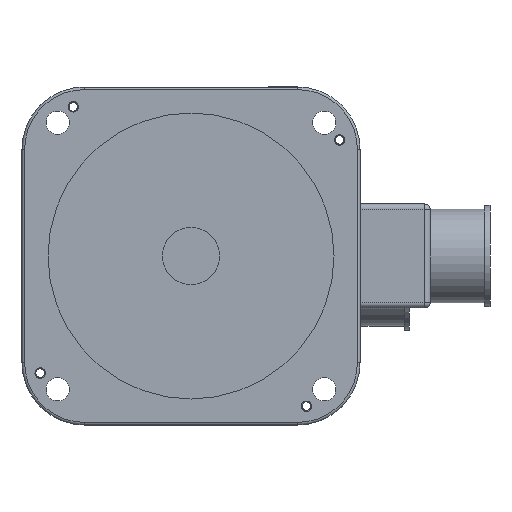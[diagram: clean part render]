
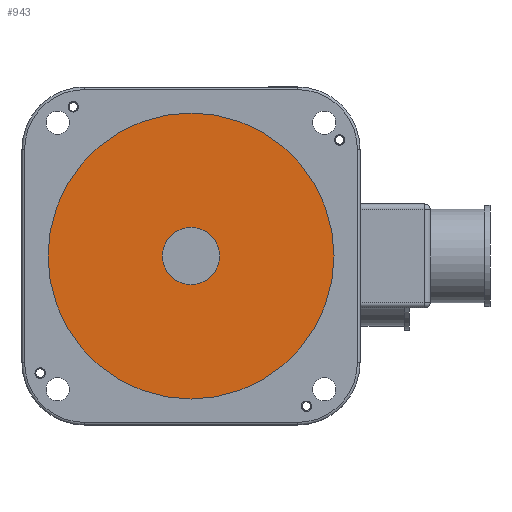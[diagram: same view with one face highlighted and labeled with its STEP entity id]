
A CAD part, left-side view. The second image highlights one B-rep face of the part: STEP entity #943.
In plain terms, the highlighted planar face has unit normal (-1, 0, 0).
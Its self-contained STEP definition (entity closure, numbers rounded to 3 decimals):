
#270=FACE_BOUND('',#1450,.T.);
#271=FACE_BOUND('',#1451,.T.);
#345=PLANE('',#4106);
#943=ADVANCED_FACE('',(#270,#271),#345,.F.);
#1450=EDGE_LOOP('',(#1901));
#1451=EDGE_LOOP('',(#1902));
#1901=ORIENTED_EDGE('',*,*,#3348,.T.);
#1902=ORIENTED_EDGE('',*,*,#3351,.F.);
#2995=VERTEX_POINT('',#6110);
#2998=VERTEX_POINT('',#6118);
#3348=EDGE_CURVE('',#2995,#2995,#3838,.T.);
#3351=EDGE_CURVE('',#2998,#2998,#3841,.T.);
#3838=CIRCLE('',#4099,11.);
#3841=CIRCLE('',#4104,55.);
#4099=AXIS2_PLACEMENT_3D('',#6109,#4748,#4749);
#4104=AXIS2_PLACEMENT_3D('',#6117,#4758,#4759);
#4106=AXIS2_PLACEMENT_3D('',#6120,#4762,#4763);
#4748=DIRECTION('',(1.,0.,0.));
#4749=DIRECTION('',(0.,1.,0.));
#4758=DIRECTION('',(1.,0.,0.));
#4759=DIRECTION('',(0.,1.,0.));
#4762=DIRECTION('',(1.,0.,0.));
#4763=DIRECTION('',(0.,0.,-1.));
#6109=CARTESIAN_POINT('',(52.,0.,0.));
#6110=CARTESIAN_POINT('',(52.,11.,0.));
#6117=CARTESIAN_POINT('',(52.,0.,0.));
#6118=CARTESIAN_POINT('',(52.,55.,0.));
#6120=CARTESIAN_POINT('',(52.,0.,0.));
